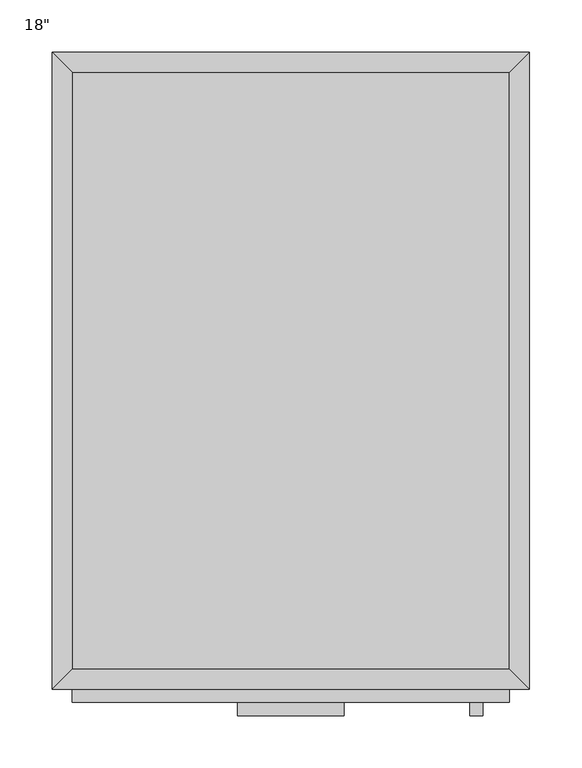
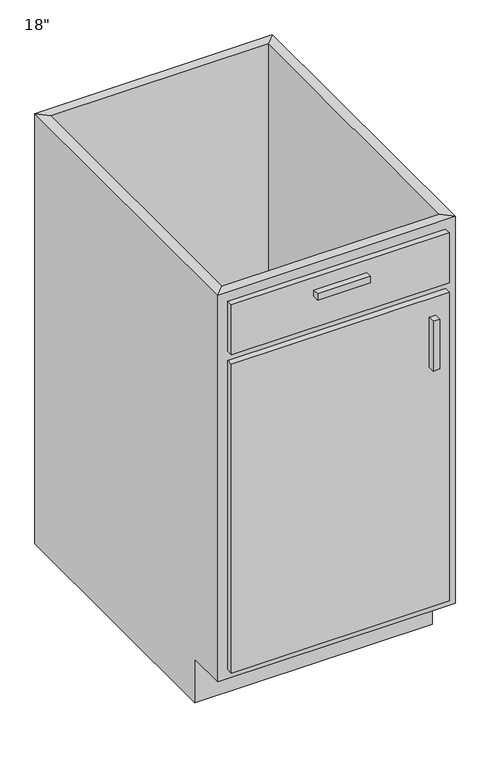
"""IFC4 building model written with IfcOpenShell, lengths in millimetres: furniture geometry."""

from ifc_helpers import new_model, si_unit, frame, origin, place, context, project, spatial, polyline, outline, extrude, faceted_brep, source, transform, mapped, element, save


def furniture_6ace90bf(model_context):
    return source(origin(), model_context, "Body", "SolidModel", [
        faceted_brep([(228.2877049, -590.55, 876.3), (228.2877049, -590.55, 88.9), (-190.8122951, -590.55, 88.9), (-190.8122951, -590.55, 876.3), (-209.8622951, -609.6, 876.3), (247.3377049, -609.6, 876.3), (-209.8622951, -609.6, 88.9), (247.3377049, -609.6, 88.9), (-190.8122951, -533.4, 88.9), (-190.8122951, -19.05, 88.9), (-190.8122951, -19.05, 876.3), (-209.8622951, 0.0, 876.3), (-209.8622951, 0.0, 0.0), (-209.8622951, -533.4, 0.0), (-209.8622951, -533.4, 88.9), (228.2877049, -19.05, 88.9), (228.2877049, -19.05, 876.3), (247.3377049, 0.0, 876.3), (247.3377049, 0.0, 0.0), (228.2877049, -533.4, 88.9), (247.3377049, -533.4, 88.9), (247.3377049, -533.4, 0.0)], [[[0, 1, 2, 3]], [[0, 3, 4, 5]], [[5, 4, 6, 7]], [[2, 1, 7, 6]], [[3, 2, 8, 9, 10]], [[4, 3, 10, 11]], [[6, 4, 11, 12, 13, 14]], [[2, 6, 14, 8]], [[10, 9, 15, 16]], [[11, 10, 16, 17]], [[12, 11, 17, 18]], [[1, 0, 16, 15, 19]], [[0, 5, 17, 16]], [[5, 7, 20, 21, 18, 17]], [[7, 1, 19, 20]], [[8, 19, 15, 9]], [[18, 21, 13, 12]], [[13, 21, 20, 19, 8, 14]]]),
        extrude(outline(polyline([(202.8877049, -635.0), (190.1877049, -635.0), (190.1877049, -622.3), (202.8877049, -622.3), (202.8877049, -635.0)])), frame((0.0, 0.0, 596.9), z_axis=(0.0, 0.0, 1.0), x_axis=(1.0, 0.0, 0.0)), (0.0, 0.0, 1.0), 101.6),
        extrude(outline(polyline([(69.5377049, -635.0), (-32.0622951, -635.0), (-32.0622951, -622.3), (69.5377049, -622.3), (69.5377049, -635.0)])), frame((0.0, 0.0, 819.15), z_axis=(0.0, 0.0, 1.0), x_axis=(1.0, 0.0, 0.0)), (0.0, 0.0, 1.0), 12.7),
        extrude(outline(polyline([(228.2877049, -622.3), (-190.8122951, -622.3), (-190.8122951, -609.6), (228.2877049, -609.6), (228.2877049, -622.3)])), frame((0.0, 0.0, 107.95), z_axis=(0.0, 0.0, 1.0), x_axis=(1.0, 0.0, 0.0)), (0.0, 0.0, 1.0), 628.65),
        extrude(outline(polyline([(228.2877049, -622.3), (-190.8122951, -622.3), (-190.8122951, -609.6), (228.2877049, -609.6), (228.2877049, -622.3)])), frame((0.0, 0.0, 755.65), z_axis=(0.0, 0.0, 1.0), x_axis=(1.0, 0.0, 0.0)), (0.0, 0.0, 1.0), 101.6),
        extrude(outline(polyline([(228.2877049, -19.05), (228.2877049, -590.55), (-190.8122951, -590.55), (-190.8122951, -19.05), (228.2877049, -19.05)])), frame((0.0, 0.0, 88.9), z_axis=(0.0, 0.0, 1.0), x_axis=(1.0, 0.0, 0.0)), (0.0, 0.0, 1.0), 19.05),
    ])


if __name__ == "__main__":
    model = new_model("IFC4")
    model_context = context("Model", 3, world=origin())
    ifc_project = project(units=[si_unit("LENGTHUNIT", "METRE", prefix="MILLI")], contexts=[model_context])
    site = spatial("IfcSite", under=ifc_project)
    building = spatial("IfcBuilding", under=site)
    placement = place(None, origin())
    furniture_shape = furniture_6ace90bf(model_context)
    element("IfcFurniture", 1, ObjectType="Base Cabinet-Single Door & Drawer : 18\"", at=placement, inside=building, context=model_context, shape_type="MappedRepresentation", body=[
        mapped(furniture_shape, transform((0.0, 0.0, 0.0), x_axis=(1.0, 0.0, 0.0), y_axis=(0.0, 1.0, 0.0), z_axis=(0.0, 0.0, 1.0))),
    ])
    save(model, "model.ifc")
